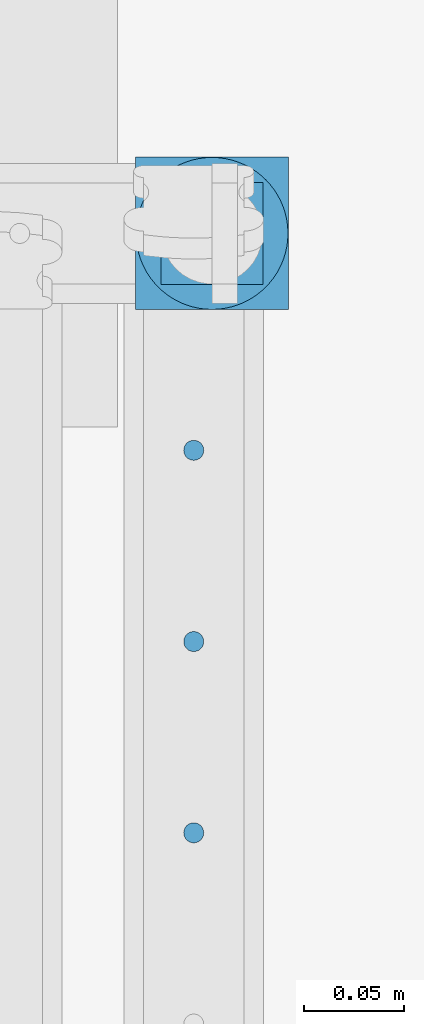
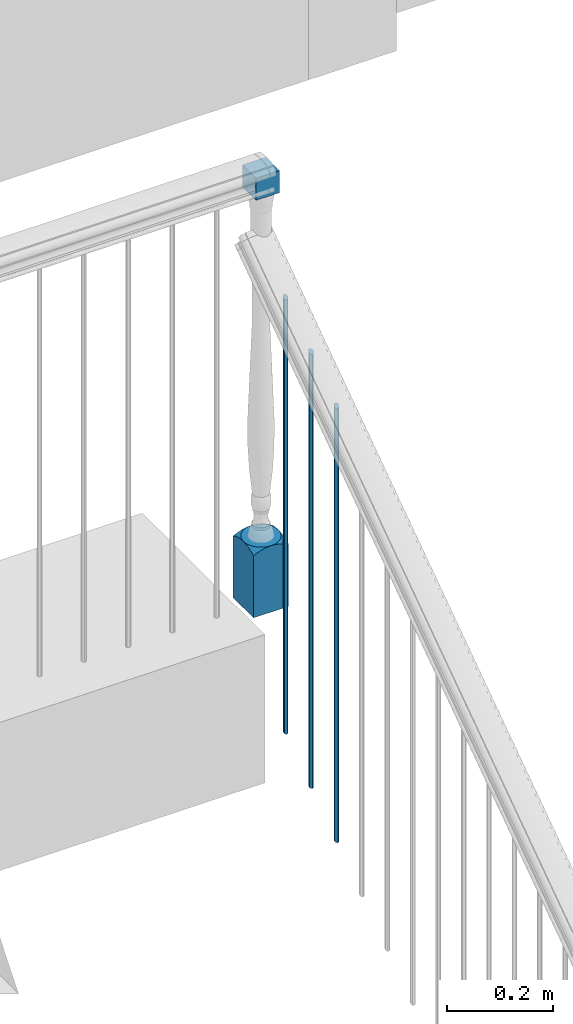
# One storey, part 16 of 77: 4 building element parts, 2 elements without a shape of their own.
"""IFC2X3 building model written with IfcOpenShell, lengths in inches."""

import ifcopenshell
import ifcopenshell.guid

model = None  # the IFC model being written
_history = None  # IfcOwnerHistory: only IFC2X3 demands one
_inside = {}  # id of a spatial element -> (the spatial element, [elements in it])
_under = {}  # id of a project, library or spatial element -> (it, [spatial elements below it])
_declared = {}  # id of a project -> (the project, [libraries it declares])
_typed = {}  # id of a type object -> (the type object, [elements of that type])
_made_of = {}  # id of a material, layer set ... -> (it, [elements and type objects made of it])


def new_model(schema):
    """Start an empty IFC model of exactly this schema.

    Asked for "IFC4X3", IfcOpenShell would pick the latest addendum, in which some entities
    have other attributes; the version numbers below select the first issue.
    IFC2X3 requires an IfcOwnerHistory on every rooted entity: one is made here for all.
    """
    global model, _history
    if schema == "IFC4X3":
        model = ifcopenshell.file(schema_version=(4, 3, 0, 0))
    else:
        model = ifcopenshell.file(schema=schema)
    _inside.clear()
    _under.clear()
    _declared.clear()
    _typed.clear()
    _made_of.clear()
    _history = None
    if model.schema == "IFC2X3":
        org = make("IfcOrganization", Name="unknown")
        user = make(
            "IfcPersonAndOrganization",
            ThePerson=make("IfcPerson", FamilyName="unknown"),
            TheOrganization=org,
        )
        app = make(
            "IfcApplication",
            ApplicationDeveloper=org,
            Version="unknown",
            ApplicationFullName="unknown",
            ApplicationIdentifier="unknown",
        )
        _history = make(
            "IfcOwnerHistory",
            OwningUser=user,
            OwningApplication=app,
            ChangeAction="ADDED",
            CreationDate=0,
        )
    return model


def make(cls, **values):
    """One entity of the class cls with the attributes given. An attribute that is None is left unset."""
    return model.create_entity(
        cls, **{name: value for name, value in values.items() if value is not None}
    )


def entity(cls, *values):
    """Any entity or typed value of the class cls, its attributes in the order of the schema. None: left unset."""
    e = model.create_entity(cls)
    for i, value in enumerate(values):
        if value is not None:
            e[i] = value
    return e


def rooted(cls, **values):
    """An entity with a GlobalId (a new one), such as an element, a storey or a relation."""
    return make(cls, GlobalId=ifcopenshell.guid.new(), OwnerHistory=_history, **values)


def si_unit(unit_type, name, prefix=None):
    """IfcSIUnit, for example si_unit("LENGTHUNIT", "METRE", prefix="MILLI")."""
    return make("IfcSIUnit", UnitType=unit_type, Prefix=prefix, Name=name)


def converted_unit(unit_type, name, factor, base, dimensions=None, offset=None):
    """IfcConversionBasedUnit, such as the inch: factor (a typed value) times the base unit."""
    return make(
        "IfcConversionBasedUnit"
        if offset is None
        else "IfcConversionBasedUnitWithOffset",
        ConversionOffset=offset,
        Dimensions=None
        if dimensions is None
        else entity("IfcDimensionalExponents", *dimensions),
        UnitType=unit_type,
        Name=name,
        ConversionFactor=make(
            "IfcMeasureWithUnit", ValueComponent=factor, UnitComponent=base
        ),
    )


def derived_unit(unit_type, elements):
    """IfcDerivedUnit: a product of units, each with its exponent."""
    return make(
        "IfcDerivedUnit",
        Elements=[
            make("IfcDerivedUnitElement", Unit=unit, Exponent=power)
            for unit, power in elements
        ],
        UnitType=unit_type,
    )


def money_unit(currency):
    """IfcMonetaryUnit."""
    return make("IfcMonetaryUnit", Currency=currency)


def assignment(units):
    """IfcUnitAssignment: the units of a project."""
    return None if units is None else make("IfcUnitAssignment", Units=units)


def point(xyz):
    """IfcCartesianPoint."""
    return None if xyz is None else make("IfcCartesianPoint", Coordinates=xyz)


def direction(xyz):
    """IfcDirection."""
    return None if xyz is None else make("IfcDirection", DirectionRatios=xyz)


def frame(location, z_axis=None, x_axis=None):
    """IfcAxis2Placement3D, a coordinate frame: its origin and axes. An axis left out is left unset."""
    return make(
        "IfcAxis2Placement3D",
        Location=point(location),
        Axis=direction(z_axis),
        RefDirection=direction(x_axis),
    )


def origin_with_axes():
    """The frame at (0, 0, 0) with the z axis (0, 0, 1) and the x axis (1, 0, 0) written out."""
    return frame((0.0, 0.0, 0.0), z_axis=(0.0, 0.0, 1.0), x_axis=(1.0, 0.0, 0.0))


def place(relative_to, where):
    """IfcLocalPlacement: puts the frame where relative to a parent placement (None: the world)."""
    return make(
        "IfcLocalPlacement", PlacementRelTo=relative_to, RelativePlacement=where
    )


def context(
    kind, dimensions, precision=None, world=None, true_north=None, identifier=None
):
    """IfcGeometricRepresentationContext, for example the 3D "Model" context."""
    return make(
        "IfcGeometricRepresentationContext",
        ContextIdentifier=identifier,
        ContextType=kind,
        CoordinateSpaceDimension=dimensions,
        Precision=precision,
        WorldCoordinateSystem=world,
        TrueNorth=true_north,
    )


def subcontext(parent, identifier, kind, view, scale=None):
    """IfcGeometricRepresentationSubContext, for example "Body" below "Model"."""
    return make(
        "IfcGeometricRepresentationSubContext",
        ContextIdentifier=identifier,
        ContextType=kind,
        ParentContext=parent,
        TargetScale=scale,
        TargetView=view,
    )


def project(units=None, contexts=None):
    """IfcProject with its units and contexts."""
    return rooted(
        "IfcProject",
        Name="project",
        RepresentationContexts=contexts,
        UnitsInContext=assignment(units),
    )


def spatial(cls, under=None, at=None, **own):
    """A site, building, storey or space (cls), placed at a placement, below another one or the project."""
    s = rooted(cls, ObjectPlacement=at, **own)
    if under is not None:
        _under.setdefault(under.id(), (under, []))[1].append(s)
    return s


def faces_of(points, faces, orient=None, outer=None):
    """IfcFace entities. A face is a list of loops; a loop is a list of indices into points, from 0.

    orient and outer hold one flag for each loop. By default every Orientation is true, the
    first loop of a face is its IfcFaceOuterBound and the others are IfcFaceBound.
    """
    made = []
    for i, loops in enumerate(faces):
        bounds = []
        for j, loop in enumerate(loops):
            is_outer = j == 0 if outer is None else outer[i][j]
            bounds.append(
                make(
                    "IfcFaceOuterBound" if is_outer else "IfcFaceBound",
                    Bound=make("IfcPolyLoop", Polygon=[points[k] for k in loop]),
                    Orientation=True if orient is None else orient[i][j],
                )
            )
        made.append(make("IfcFace", Bounds=bounds))
    return made


def faceted_brep(points, faces, orient=None, outer=None, voids=None):
    """IfcFacetedBrep: a solid bounded by flat faces; with voids (closed shells), ...WithVoids."""
    shared = [point(p) for p in points]
    hull = make("IfcClosedShell", CfsFaces=faces_of(shared, faces, orient, outer))
    if voids is None:
        return make("IfcFacetedBrep", Outer=hull)
    return make(
        "IfcFacetedBrepWithVoids",
        Outer=hull,
        Voids=[
            make(cls, CfsFaces=faces_of(shared, fs, o, b)) for cls, fs, o, b in voids
        ],
    )


def shape(context_of_items, identifier, shape_type, items):
    """IfcShapeRepresentation: the items that make up one representation, for example the "Body"."""
    return make(
        "IfcShapeRepresentation",
        ContextOfItems=context_of_items,
        RepresentationIdentifier=identifier,
        RepresentationType=shape_type,
        Items=items,
    )


def material(Name=None, Category=None):
    """IfcMaterial."""
    return make("IfcMaterial", Name=Name, Category=Category)


def made_of(thing, what):
    """Note that an element or type object is made of a material, layer set ...; save() writes the relation."""
    if what is not None:
        _made_of.setdefault(what.id(), (what, []))[1].append(thing)
    return thing


def type_object(cls, material=None, **own):
    """A type object (cls), such as IfcWallType, which elements share."""
    return made_of(rooted(cls, **own), material)


def element(
    cls,
    number,
    at=None,
    inside=None,
    cuts=None,
    type_object=None,
    material=None,
    context=None,
    identifier="Body",
    shape_type=None,
    held_by="IfcProductDefinitionShape",
    body=None,
    shapes=None,
    **own,
):
    """One element of the class cls, such as IfcWall. Its Tag is "e" and its number.

    at: its placement. inside: the storey or other place that contains it. cuts: it is an
    opening in that element (IfcRelVoidsElement). A single representation is given by context,
    identifier, shape_type and body (its items); several are given by shapes. held_by: the class
    of the entity that holds the representations. save() writes the other relations.
    """
    e = rooted(cls, Tag="e%d" % number, ObjectPlacement=at, **own)
    if body is not None:
        shapes = [shape(context, identifier, shape_type, body)]
    if shapes is not None:
        e.Representation = make(held_by, Representations=shapes)
    if inside is not None:
        _inside.setdefault(inside.id(), (inside, []))[1].append(e)
    if cuts is not None:
        rooted(
            "IfcRelVoidsElement", RelatingBuildingElement=cuts, RelatedOpeningElement=e
        )
    if type_object is not None:
        _typed.setdefault(type_object.id(), (type_object, []))[1].append(e)
    return made_of(e, material)


def aggregate(whole, parts):
    """IfcRelAggregates: a whole, such as a stair, and the parts it consists of."""
    return rooted("IfcRelAggregates", RelatingObject=whole, RelatedObjects=parts)


def save(model, path):
    """Write the relations noted so far, then the file.

    IfcRelAggregates (storeys below a building ...), IfcRelContainedInSpatialStructure (elements
    in a storey), IfcRelDefinesByType, IfcRelAssociatesMaterial and IfcRelDeclares: one each for
    every whole, place, type object, material and project.
    """
    for whole, parts in _under.values():
        aggregate(whole, parts)
    for where, things in _inside.values():
        rooted(
            "IfcRelContainedInSpatialStructure",
            RelatedElements=things,
            RelatingStructure=where,
        )
    for kind, things in _typed.values():
        rooted("IfcRelDefinesByType", RelatedObjects=things, RelatingType=kind)
    for what, things in _made_of.values():
        rooted("IfcRelAssociatesMaterial", RelatedObjects=things, RelatingMaterial=what)
    for by, libraries in _declared.values():
        rooted("IfcRelDeclares", RelatingContext=by, RelatedDefinitions=libraries)
    model.write(path)


model = new_model("IFC2X3")

# Units and contexts
model_context = context("Model", 3, precision=0.000393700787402, world=origin_with_axes(), true_north=direction((0.0, 1.0)))
body_context = subcontext(model_context, "Body", "Model", "MODEL_VIEW")
ifc_project = project(units=[converted_unit("LENGTHUNIT", "INCH", entity("IfcPositiveLengthMeasure", 0.0254), si_unit("LENGTHUNIT", "METRE"), dimensions=[1, 0, 0, 0, 0, 0, 0]), converted_unit("AREAUNIT", "SQUARE_FOOT", entity("IfcPositiveLengthMeasure", 0.09290304), si_unit("AREAUNIT", "SQUARE_METRE"), dimensions=[2, 0, 0, 0, 0, 0, 0]), si_unit("PLANEANGLEUNIT", "RADIAN"), si_unit("SOLIDANGLEUNIT", "STERADIAN"), money_unit("USD"), converted_unit("TIMEUNIT", "Year", entity("IfcTimeMeasure", 31556926.0), si_unit("TIMEUNIT", "SECOND"), dimensions=[0, 0, 1, 0, 0, 0, 0]), si_unit("MASSUNIT", "GRAM", prefix="KILO"), si_unit("THERMODYNAMICTEMPERATUREUNIT", "DEGREE_CELSIUS"), si_unit("LUMINOUSINTENSITYUNIT", "LUMEN"), si_unit("ENERGYUNIT", "JOULE", prefix="MEGA"), derived_unit("THERMALCONDUCTANCEUNIT", [(si_unit("POWERUNIT", "WATT"), 1), (si_unit("LENGTHUNIT", "METRE"), -1), (si_unit("THERMODYNAMICTEMPERATUREUNIT", "KELVIN"), -1)]), derived_unit("SPECIFICHEATCAPACITYUNIT", [(si_unit("ENERGYUNIT", "JOULE"), 1), (si_unit("MASSUNIT", "GRAM", prefix="KILO"), -1), (si_unit("THERMODYNAMICTEMPERATUREUNIT", "KELVIN"), -1)]), derived_unit("MASSDENSITYUNIT", [(si_unit("MASSUNIT", "GRAM", prefix="KILO"), 1), (si_unit("VOLUMEUNIT", "CUBIC_METRE"), -1)])], contexts=[model_context])

# Site, building, storey
site_placement = place(None, origin_with_axes())
site = spatial("IfcSite", under=ifc_project, at=site_placement, Name="Site", CompositionType="ELEMENT")
building_placement = place(site_placement, origin_with_axes())
building = spatial("IfcBuilding", under=site, at=building_placement, Name="Building", CompositionType="ELEMENT")
storey_placement = place(building_placement, frame((0.0, 0.0, 127.952755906), z_axis=(0.0, 0.0, 1.0), x_axis=(1.0, 0.0, 0.0)))
storey = spatial("IfcBuildingStorey", under=building, at=storey_placement, Name="Second Floor", CompositionType="ELEMENT", Elevation=127.953)

# Railing, building element parts
railing_type = type_object("IfcRailingType", Name="Railing Type", PredefinedType="NOTDEFINED")
railing_1_placement = place(storey_placement, frame((682.459998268, 144.881628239, -56.1089279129), z_axis=(0.0, 0.0, 1.0), x_axis=(-1.0, 0.0, 0.0)))
railing_1 = element("IfcRailing", 1, at=railing_1_placement, inside=storey, type_object=railing_type, Name="RAILING - 001", PredefinedType="NOTDEFINED")
ifc_material_1 = material(Name="Steel - Structural")
building_element_part_1_placement = place(railing_1_placement, origin_with_axes())
building_element_part_1 = element("IfcBuildingElementPart", 2, at=building_element_part_1_placement, material=ifc_material_1, Name="Steel - Structural", context=body_context, shape_type="Brep", body=[
    faceted_brep([(-1.96850393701, 4.07451677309, 47.2837761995), (-1.93432122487, 4.07750737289, 47.2816936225), (-1.93432122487, 4.07750737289, 86.4942925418), (-1.96850393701, 4.07451677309, 86.4963751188), (-2.00268664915, 4.07750737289, 47.2816936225), (-2.03583073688, 4.08638830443, 47.2755091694), (-2.06692913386, 4.1008897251, 47.2654107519), (-2.09503693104, 4.12057101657, 47.2517052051), (-2.11930008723, 4.14483417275, 47.2348089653), (-2.1389813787, 4.17294196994, 47.215235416), (-2.15348279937, 4.20404036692, 47.1935792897), (-2.16236373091, 4.23718445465, 47.1704985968), (-2.16535433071, 4.27136716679, 47.1466946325), (-2.16236373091, 4.30554987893, 47.1228906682), (-2.15348279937, 4.33869396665, 47.0998099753), (-2.1389813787, 4.36979236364, 47.078153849), (-2.11930008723, 4.39790016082, 47.0585802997), (-2.09503693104, 4.42216331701, 47.0416840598), (-2.06692913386, 4.44184460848, 47.0279785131), (-2.03583073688, 4.45634602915, 47.0178800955), (-2.00268664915, 4.46522696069, 47.0116956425), (-1.96850393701, 4.46821756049, 47.0096130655), (-1.93432122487, 4.46522696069, 47.0116956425), (-1.90117713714, 4.45634602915, 47.0178800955), (-1.87007874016, 4.44184460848, 47.0279785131), (-1.84197094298, 4.42216331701, 47.0416840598), (-1.81770778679, 4.39790016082, 47.0585802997), (-1.79802649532, 4.36979236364, 47.078153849), (-1.78352507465, 4.33869396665, 47.0998099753), (-1.77464414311, 4.30554987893, 47.1228906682), (-1.77165354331, 4.27136716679, 47.1466946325), (-1.77464414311, 4.23718445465, 47.1704985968), (-1.78352507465, 4.20404036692, 47.1935792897), (-1.79802649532, 4.17294196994, 47.215235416), (-1.81770778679, 4.14483417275, 47.2348089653), (-1.84197094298, 4.12057101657, 47.2517052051), (-1.87007874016, 4.1008897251, 47.2654107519), (-1.90117713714, 4.08638830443, 47.2755091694), (-1.90117713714, 4.08638830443, 86.4881080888), (-1.87007874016, 4.1008897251, 86.4780096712), (-1.84197094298, 4.12057101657, 86.4643041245), (-1.81770778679, 4.14483417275, 86.4474078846), (-1.79802649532, 4.17294196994, 86.4278343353), (-1.78352507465, 4.20404036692, 86.406178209), (-1.77464414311, 4.23718445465, 86.3830975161), (-1.77165354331, 4.27136716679, 86.3592935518), (-1.77464414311, 4.30554987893, 86.3354895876), (-1.78352507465, 4.33869396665, 86.3124088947), (-1.79802649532, 4.36979236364, 86.2907527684), (-1.81770778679, 4.39790016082, 86.2711792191), (-1.84197094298, 4.42216331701, 86.2542829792), (-1.87007874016, 4.44184460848, 86.2405774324), (-1.90117713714, 4.45634602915, 86.2304790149), (-1.93432122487, 4.46522696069, 86.2242945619), (-1.96850393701, 4.46821756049, 86.2222119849), (-2.00268664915, 4.46522696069, 86.2242945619), (-2.03583073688, 4.45634602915, 86.2304790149), (-2.06692913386, 4.44184460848, 86.2405774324), (-2.09503693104, 4.42216331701, 86.2542829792), (-2.11930008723, 4.39790016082, 86.2711792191), (-2.1389813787, 4.36979236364, 86.2907527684), (-2.15348279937, 4.33869396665, 86.3124088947), (-2.16236373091, 4.30554987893, 86.3354895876), (-2.16535433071, 4.27136716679, 86.3592935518), (-2.16236373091, 4.23718445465, 86.3830975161), (-2.15348279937, 4.20404036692, 86.406178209), (-2.1389813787, 4.17294196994, 86.4278343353), (-2.11930008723, 4.14483417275, 86.4474078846), (-2.09503693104, 4.12057101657, 86.4643041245), (-2.06692913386, 4.1008897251, 86.4780096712), (-2.03583073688, 4.08638830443, 86.4881080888), (-2.00268664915, 4.07750737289, 86.4942925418)], [[[0, 1, 2, 3]], [[0, 4, 5, 6, 7, 8, 9, 10, 11, 12, 13, 14, 15, 16, 17, 18, 19, 20, 21, 22, 23, 24, 25, 26, 27, 28, 29, 30, 31, 32, 33, 34, 35, 36, 37, 1]], [[1, 37, 38, 2]], [[3, 2, 38, 39, 40, 41, 42, 43, 44, 45, 46, 47, 48, 49, 50, 51, 52, 53, 54, 55, 56, 57, 58, 59, 60, 61, 62, 63, 64, 65, 66, 67, 68, 69, 70, 71]], [[4, 0, 3, 71]], [[5, 4, 71, 70]], [[6, 5, 70, 69]], [[7, 6, 69, 68]], [[8, 7, 68, 67]], [[9, 8, 67, 66]], [[10, 9, 66, 65]], [[11, 10, 65, 64]], [[12, 11, 64, 63]], [[13, 12, 63, 62]], [[14, 13, 62, 61]], [[15, 14, 61, 60]], [[16, 15, 60, 59]], [[17, 16, 59, 58]], [[18, 17, 58, 57]], [[19, 18, 57, 56]], [[20, 19, 56, 55]], [[21, 20, 55, 54]], [[22, 21, 54, 53]], [[23, 22, 53, 52]], [[24, 23, 52, 51]], [[25, 24, 51, 50]], [[26, 25, 50, 49]], [[27, 26, 49, 48]], [[28, 27, 48, 47]], [[29, 28, 47, 46]], [[30, 29, 46, 45]], [[31, 30, 45, 44]], [[32, 31, 44, 43]], [[33, 32, 43, 42]], [[34, 33, 42, 41]], [[35, 34, 41, 40]], [[36, 35, 40, 39]], [[37, 36, 39, 38]]]),
])
building_element_part_2_placement = place(railing_1_placement, origin_with_axes())
building_element_part_2 = element("IfcBuildingElementPart", 3, at=building_element_part_2_placement, material=ifc_material_1, Name="Steel - Structural", context=body_context, shape_type="Brep", body=[
    faceted_brep([(-1.96850393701, 7.83579948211, 44.6645153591), (-1.93432122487, 7.83879008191, 44.6624327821), (-1.93432122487, 7.83879008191, 83.8750317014), (-1.96850393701, 7.83579948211, 83.8771142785), (-2.00268664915, 7.83879008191, 44.6624327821), (-2.03583073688, 7.84767101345, 44.6562483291), (-2.06692913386, 7.86217243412, 44.6461499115), (-2.09503693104, 7.88185372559, 44.6324443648), (-2.11930008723, 7.90611688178, 44.6155481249), (-2.1389813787, 7.93422467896, 44.5959745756), (-2.15348279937, 7.96532307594, 44.5743184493), (-2.16236373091, 7.99846716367, 44.5512377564), (-2.16535433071, 8.03264987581, 44.5274337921), (-2.16236373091, 8.06683258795, 44.5036298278), (-2.15348279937, 8.09997667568, 44.4805491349), (-2.1389813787, 8.13107507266, 44.4588930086), (-2.11930008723, 8.15918286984, 44.4393194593), (-2.09503693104, 8.18344602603, 44.4224232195), (-2.06692913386, 8.2031273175, 44.4087176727), (-2.03583073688, 8.21762873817, 44.3986192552), (-2.00268664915, 8.22650966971, 44.3924348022), (-1.96850393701, 8.22950026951, 44.3903522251), (-1.93432122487, 8.22650966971, 44.3924348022), (-1.90117713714, 8.21762873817, 44.3986192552), (-1.87007874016, 8.2031273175, 44.4087176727), (-1.84197094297, 8.18344602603, 44.4224232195), (-1.81770778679, 8.15918286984, 44.4393194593), (-1.79802649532, 8.13107507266, 44.4588930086), (-1.78352507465, 8.09997667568, 44.4805491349), (-1.77464414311, 8.06683258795, 44.5036298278), (-1.77165354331, 8.03264987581, 44.5274337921), (-1.77464414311, 7.99846716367, 44.5512377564), (-1.78352507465, 7.96532307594, 44.5743184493), (-1.79802649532, 7.93422467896, 44.5959745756), (-1.81770778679, 7.90611688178, 44.6155481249), (-1.84197094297, 7.88185372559, 44.6324443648), (-1.87007874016, 7.86217243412, 44.6461499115), (-1.90117713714, 7.84767101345, 44.6562483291), (-1.90117713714, 7.84767101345, 83.8688472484), (-1.87007874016, 7.86217243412, 83.8587488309), (-1.84197094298, 7.88185372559, 83.8450432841), (-1.81770778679, 7.90611688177, 83.8281470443), (-1.79802649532, 7.93422467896, 83.808573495), (-1.78352507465, 7.96532307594, 83.7869173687), (-1.77464414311, 7.99846716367, 83.7638366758), (-1.77165354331, 8.03264987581, 83.7400327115), (-1.77464414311, 8.06683258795, 83.7162287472), (-1.78352507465, 8.09997667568, 83.6931480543), (-1.79802649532, 8.13107507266, 83.671491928), (-1.81770778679, 8.15918286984, 83.6519183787), (-1.84197094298, 8.18344602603, 83.6350221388), (-1.87007874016, 8.2031273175, 83.6213165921), (-1.90117713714, 8.21762873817, 83.6112181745), (-1.93432122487, 8.22650966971, 83.6050337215), (-1.96850393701, 8.22950026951, 83.6029511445), (-2.00268664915, 8.22650966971, 83.6050337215), (-2.03583073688, 8.21762873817, 83.6112181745), (-2.06692913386, 8.2031273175, 83.6213165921), (-2.09503693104, 8.18344602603, 83.6350221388), (-2.11930008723, 8.15918286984, 83.6519183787), (-2.1389813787, 8.13107507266, 83.671491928), (-2.15348279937, 8.09997667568, 83.6931480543), (-2.16236373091, 8.06683258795, 83.7162287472), (-2.16535433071, 8.03264987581, 83.7400327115), (-2.16236373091, 7.99846716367, 83.7638366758), (-2.15348279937, 7.96532307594, 83.7869173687), (-2.1389813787, 7.93422467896, 83.808573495), (-2.11930008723, 7.90611688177, 83.8281470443), (-2.09503693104, 7.88185372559, 83.8450432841), (-2.06692913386, 7.86217243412, 83.8587488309), (-2.03583073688, 7.84767101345, 83.8688472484), (-2.00268664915, 7.83879008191, 83.8750317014)], [[[0, 1, 2, 3]], [[0, 4, 5, 6, 7, 8, 9, 10, 11, 12, 13, 14, 15, 16, 17, 18, 19, 20, 21, 22, 23, 24, 25, 26, 27, 28, 29, 30, 31, 32, 33, 34, 35, 36, 37, 1]], [[1, 37, 38, 2]], [[3, 2, 38, 39, 40, 41, 42, 43, 44, 45, 46, 47, 48, 49, 50, 51, 52, 53, 54, 55, 56, 57, 58, 59, 60, 61, 62, 63, 64, 65, 66, 67, 68, 69, 70, 71]], [[4, 0, 3, 71]], [[5, 4, 71, 70]], [[6, 5, 70, 69]], [[7, 6, 69, 68]], [[8, 7, 68, 67]], [[9, 8, 67, 66]], [[10, 9, 66, 65]], [[11, 10, 65, 64]], [[12, 11, 64, 63]], [[13, 12, 63, 62]], [[14, 13, 62, 61]], [[15, 14, 61, 60]], [[16, 15, 60, 59]], [[17, 16, 59, 58]], [[18, 17, 58, 57]], [[19, 18, 57, 56]], [[20, 19, 56, 55]], [[21, 20, 55, 54]], [[22, 21, 54, 53]], [[23, 22, 53, 52]], [[24, 23, 52, 51]], [[25, 24, 51, 50]], [[26, 25, 50, 49]], [[27, 26, 49, 48]], [[28, 27, 48, 47]], [[29, 28, 47, 46]], [[30, 29, 46, 45]], [[31, 30, 45, 44]], [[32, 31, 44, 43]], [[33, 32, 43, 42]], [[34, 33, 42, 41]], [[35, 34, 41, 40]], [[36, 35, 40, 39]], [[37, 36, 39, 38]]]),
])
building_element_part_3_placement = place(railing_1_placement, origin_with_axes())
building_element_part_3 = element("IfcBuildingElementPart", 4, at=building_element_part_3_placement, material=ifc_material_1, Name="Steel - Structural", context=body_context, shape_type="Brep", body=[
    faceted_brep([(-1.96850393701, 11.5970821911, 42.0452545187), (-1.93432122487, 11.6000727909, 42.0431719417), (-1.93432122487, 11.6000727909, 81.2557708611), (-1.96850393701, 11.5970821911, 81.2578534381), (-2.00268664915, 11.6000727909, 42.0431719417), (-2.03583073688, 11.6089537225, 42.0369874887), (-2.06692913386, 11.6234551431, 42.0268890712), (-2.09503693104, 11.6431364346, 42.0131835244), (-2.11930008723, 11.6673995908, 41.9962872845), (-2.1389813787, 11.695507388, 41.9767137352), (-2.15348279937, 11.726605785, 41.9550576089), (-2.16236373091, 11.7597498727, 41.9319769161), (-2.16535433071, 11.7939325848, 41.9081729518), (-2.16236373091, 11.828115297, 41.8843689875), (-2.15348279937, 11.8612593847, 41.8612882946), (-2.1389813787, 11.8923577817, 41.8396321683), (-2.11930008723, 11.9204655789, 41.820058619), (-2.09503693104, 11.944728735, 41.8031623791), (-2.06692913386, 11.9644100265, 41.7894568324), (-2.03583073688, 11.9789114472, 41.7793584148), (-2.00268664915, 11.9877923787, 41.7731739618), (-1.96850393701, 11.9907829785, 41.7710913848), (-1.93432122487, 11.9877923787, 41.7731739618), (-1.90117713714, 11.9789114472, 41.7793584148), (-1.87007874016, 11.9644100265, 41.7894568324), (-1.84197094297, 11.944728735, 41.8031623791), (-1.81770778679, 11.9204655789, 41.820058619), (-1.79802649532, 11.8923577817, 41.8396321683), (-1.78352507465, 11.8612593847, 41.8612882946), (-1.77464414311, 11.828115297, 41.8843689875), (-1.77165354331, 11.7939325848, 41.9081729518), (-1.77464414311, 11.7597498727, 41.9319769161), (-1.78352507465, 11.726605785, 41.9550576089), (-1.79802649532, 11.695507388, 41.9767137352), (-1.81770778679, 11.6673995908, 41.9962872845), (-1.84197094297, 11.6431364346, 42.0131835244), (-1.87007874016, 11.6234551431, 42.0268890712), (-1.90117713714, 11.6089537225, 42.0369874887), (-1.90117713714, 11.6089537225, 81.2495864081), (-1.87007874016, 11.6234551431, 81.2394879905), (-1.84197094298, 11.6431364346, 81.2257824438), (-1.81770778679, 11.6673995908, 81.2088862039), (-1.79802649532, 11.695507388, 81.1893126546), (-1.78352507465, 11.726605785, 81.1676565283), (-1.77464414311, 11.7597498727, 81.1445758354), (-1.77165354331, 11.7939325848, 81.1207718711), (-1.77464414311, 11.828115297, 81.0969679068), (-1.78352507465, 11.8612593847, 81.0738872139), (-1.79802649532, 11.8923577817, 81.0522310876), (-1.81770778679, 11.9204655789, 81.0326575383), (-1.84197094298, 11.944728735, 81.0157612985), (-1.87007874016, 11.9644100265, 81.0020557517), (-1.90117713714, 11.9789114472, 80.9919573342), (-1.93432122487, 11.9877923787, 80.9857728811), (-1.96850393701, 11.9907829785, 80.9836903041), (-2.00268664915, 11.9877923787, 80.9857728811), (-2.03583073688, 11.9789114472, 80.9919573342), (-2.06692913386, 11.9644100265, 81.0020557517), (-2.09503693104, 11.944728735, 81.0157612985), (-2.11930008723, 11.9204655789, 81.0326575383), (-2.1389813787, 11.8923577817, 81.0522310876), (-2.15348279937, 11.8612593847, 81.0738872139), (-2.16236373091, 11.828115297, 81.0969679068), (-2.16535433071, 11.7939325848, 81.1207718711), (-2.16236373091, 11.7597498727, 81.1445758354), (-2.15348279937, 11.726605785, 81.1676565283), (-2.1389813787, 11.695507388, 81.1893126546), (-2.11930008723, 11.6673995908, 81.2088862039), (-2.09503693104, 11.6431364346, 81.2257824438), (-2.06692913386, 11.6234551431, 81.2394879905), (-2.03583073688, 11.6089537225, 81.2495864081), (-2.00268664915, 11.6000727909, 81.2557708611)], [[[0, 1, 2, 3]], [[0, 4, 5, 6, 7, 8, 9, 10, 11, 12, 13, 14, 15, 16, 17, 18, 19, 20, 21, 22, 23, 24, 25, 26, 27, 28, 29, 30, 31, 32, 33, 34, 35, 36, 37, 1]], [[1, 37, 38, 2]], [[3, 2, 38, 39, 40, 41, 42, 43, 44, 45, 46, 47, 48, 49, 50, 51, 52, 53, 54, 55, 56, 57, 58, 59, 60, 61, 62, 63, 64, 65, 66, 67, 68, 69, 70, 71]], [[4, 0, 3, 71]], [[5, 4, 71, 70]], [[6, 5, 70, 69]], [[7, 6, 69, 68]], [[8, 7, 68, 67]], [[9, 8, 67, 66]], [[10, 9, 66, 65]], [[11, 10, 65, 64]], [[12, 11, 64, 63]], [[13, 12, 63, 62]], [[14, 13, 62, 61]], [[15, 14, 61, 60]], [[16, 15, 60, 59]], [[17, 16, 59, 58]], [[18, 17, 58, 57]], [[19, 18, 57, 56]], [[20, 19, 56, 55]], [[21, 20, 55, 54]], [[22, 21, 54, 53]], [[23, 22, 53, 52]], [[24, 23, 52, 51]], [[25, 24, 51, 50]], [[26, 25, 50, 49]], [[27, 26, 49, 48]], [[28, 27, 48, 47]], [[29, 28, 47, 46]], [[30, 29, 46, 45]], [[31, 30, 45, 44]], [[32, 31, 44, 43]], [[33, 32, 43, 42]], [[34, 33, 42, 41]], [[35, 34, 41, 40]], [[36, 35, 40, 39]], [[37, 36, 39, 38]]]),
])
aggregate(railing_1, [building_element_part_1, building_element_part_2, building_element_part_3])

# Railing, building element part
railing_2_placement = place(storey_placement, frame((643.187139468, 142.90717231, 0.0), z_axis=(0.0, 0.0, 1.0), x_axis=(0.0, 1.0, 0.0)))
railing_2 = element("IfcRailing", 5, at=railing_2_placement, inside=storey, type_object=railing_type, Name="RAILING - 001", PredefinedType="NOTDEFINED")
ifc_material_2 = material(Name="Wood - Structural")
building_element_part_4_placement = place(railing_2_placement, origin_with_axes())
building_element_part_4 = element("IfcBuildingElementPart", 6, at=building_element_part_4_placement, material=ifc_material_2, Name="Wood - Structural", context=body_context, shape_type="Brep", body=[
    faceted_brep([(0.470433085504, -43.0982977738, 5.59807625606), (0.472538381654, -43.1002269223, 5.59807625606), (0.709854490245, -43.1002269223, 5.72121779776), (0.731887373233, -43.0739691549, 5.74751952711), (0.608147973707, -42.9605828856, 5.74751952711), (0.468503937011, -43.0961924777, 5.59807625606), (0.468503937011, -43.1002269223, 5.59807625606), (3.46446949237, -43.1002269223, 5.59807625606), (3.22715338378, -43.1002269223, 5.72121779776), (3.17090071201, -43.1002269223, 5.74751952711), (3.01881524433, -43.1002269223, 5.80655808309), (2.8345293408, -43.1002269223, 5.86969880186), (2.71553065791, -43.1002269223, 5.90473755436), (2.66796542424, -43.1002269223, 5.91618175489), (2.51445928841, -43.1002269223, 5.94679121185), (2.37042772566, -43.1002269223, 5.96935903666), (2.23299440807, -43.1002269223, 5.98485858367), (2.0997369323, -43.1002269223, 5.9939217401), (1.96850393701, -43.1002269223, 5.99690446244), (1.83727094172, -43.1002269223, 5.9939217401), (1.70401346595, -43.1002269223, 5.98485858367), (1.56658014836, -43.1002269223, 5.96935903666), (1.42254858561, -43.1002269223, 5.94679121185), (1.26904244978, -43.1002269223, 5.91618175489), (1.22147721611, -43.1002269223, 5.90473755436), (1.10247853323, -43.1002269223, 5.86969880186), (0.918192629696, -43.1002269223, 5.80655808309), (0.766107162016, -43.1002269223, 5.74751952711), (0.468503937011, -43.1002269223, 0.0), (3.46850393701, -43.1002269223, 0.0), (3.46850393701, -43.1002269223, 5.59807625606), (0.782649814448, -42.7860810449, 5.90473755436), (0.890516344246, -42.8849225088, 5.90473755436), (0.494761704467, -42.8368434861, 5.74751952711), (0.468503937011, -42.8588763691, 5.72121779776), (0.468503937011, -42.8026236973, 5.74751952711), (0.468503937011, -42.6505382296, 5.80655808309), (0.468503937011, -42.4662523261, 5.86969880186), (0.468503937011, -42.3472536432, 5.90473755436), (0.468503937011, -42.2996884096, 5.91618175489), (0.468503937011, -42.1461822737, 5.94679121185), (0.468503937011, -42.002150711, 5.96935903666), (0.468503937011, -41.8647173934, 5.98485858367), (0.468503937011, -41.7314599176, 5.9939217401), (0.468503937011, -41.6002269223, 5.99690446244), (0.468503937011, -41.468993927, 5.9939217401), (0.468503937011, -41.3357364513, 5.98485858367), (0.468503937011, -41.1983031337, 5.96935903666), (0.468503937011, -41.0542715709, 5.94679121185), (0.468503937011, -40.9007654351, 5.91618175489), (0.468503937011, -40.8532002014, 5.90473755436), (0.468503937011, -40.7342015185, 5.86969880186), (0.468503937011, -40.549915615, 5.80655808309), (0.468503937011, -40.3978301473, 5.74751952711), (0.468503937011, -40.3415774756, 5.72121779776), (0.468503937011, -40.104261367, 5.59807625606), (0.468503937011, -40.1002269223, 5.59807625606), (0.468503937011, -40.1002269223, 0.0), (3.46657478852, -43.0982977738, 5.59807625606), (3.32885990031, -42.9605828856, 5.74751952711), (3.20512050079, -43.0739691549, 5.74751952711), (2.93042086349, -42.9739866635, 5.90473755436), (3.04649152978, -42.8849225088, 5.90473755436), (2.80702942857, -43.0525956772, 5.90473755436), (2.59991820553, -42.9542991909, 6.0000000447), (2.71553065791, -42.8941151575, 6.0000000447), (2.47950030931, -43.0041779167, 6.0000000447), (2.35519342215, -43.0433717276, 6.0000000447), (2.22794359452, -43.0715823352, 6.0000000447), (2.09871927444, -43.0885950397, 6.0000000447), (1.96850393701, -43.0942803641, 6.0000000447), (1.83828859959, -43.0885950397, 6.0000000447), (1.70906427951, -43.0715823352, 6.0000000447), (1.58181445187, -43.0433717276, 6.0000000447), (1.45750756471, -43.0041779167, 6.0000000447), (1.33708966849, -42.9542991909, 6.0000000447), (1.12997844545, -43.0525956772, 5.90473755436), (1.22147721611, -42.8941151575, 6.0000000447), (1.00658701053, -42.9739866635, 5.90473755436), (3.46850393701, -40.1002269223, 0.0), (3.46850393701, -40.104261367, 5.59807625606), (3.46850393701, -40.3415774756, 5.72121779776), (3.46850393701, -40.3978301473, 5.74751952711), (3.46850393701, -40.549915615, 5.80655808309), (3.46850393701, -40.7342015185, 5.86969880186), (3.46850393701, -40.8532002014, 5.90473755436), (3.46850393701, -40.9007654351, 5.91618175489), (3.46850393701, -41.0542715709, 5.94679121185), (3.46850393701, -41.1983031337, 5.96935903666), (3.46850393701, -41.3357364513, 5.98485858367), (3.46850393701, -41.468993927, 5.9939217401), (3.46850393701, -41.6002269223, 5.99690446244), (3.46850393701, -41.7314599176, 5.9939217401), (3.46850393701, -41.8647173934, 5.98485858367), (3.46850393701, -42.002150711, 5.96935903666), (3.46850393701, -42.1461822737, 5.94679121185), (3.46850393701, -42.2996884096, 5.91618175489), (3.46850393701, -42.3472536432, 5.90473755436), (3.46850393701, -42.4662523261, 5.86969880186), (3.46850393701, -42.6505382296, 5.80655808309), (3.46850393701, -42.8026236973, 5.74751952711), (3.46850393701, -42.8588763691, 5.72121779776), (3.46850393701, -43.0961924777, 5.59807625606), (3.46850393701, -40.1002269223, 5.59807625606), (0.683808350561, -42.6782145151, 5.90473755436), (1.00814489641, -42.7447382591, 6.0000000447), (0.912048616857, -42.6566822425, 6.0000000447), (0.594744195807, -42.5621438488, 5.90473755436), (0.516135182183, -42.4387524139, 5.90473755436), (0.614431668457, -42.2316411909, 6.0000000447), (0.674615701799, -42.3472536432, 6.0000000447), (0.564552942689, -42.1112232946, 6.0000000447), (0.525359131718, -41.9869164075, 6.0000000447), (0.497148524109, -41.8596665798, 6.0000000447), (0.480135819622, -41.7304422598, 6.0000000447), (0.474450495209, -41.6002269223, 6.0000000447), (0.480135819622, -41.4700115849, 6.0000000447), (0.497148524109, -41.3407872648, 6.0000000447), (0.525359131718, -41.2135374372, 6.0000000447), (0.564552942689, -41.08923055, 6.0000000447), (0.614431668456, -40.9688126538, 6.0000000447), (0.516135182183, -40.7617014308, 5.90473755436), (0.674615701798, -40.8532002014, 6.0000000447), (0.594744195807, -40.6383099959, 5.90473755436), (0.494761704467, -40.3636103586, 5.74751952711), (0.683808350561, -40.5222393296, 5.90473755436), (0.470433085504, -40.1021560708, 5.59807625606), (0.608147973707, -40.239870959, 5.74751952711), (0.472538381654, -40.1002269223, 5.59807625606), (0.709854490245, -40.1002269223, 5.72121779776), (0.766107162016, -40.1002269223, 5.74751952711), (0.918192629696, -40.1002269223, 5.80655808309), (1.10247853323, -40.1002269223, 5.86969880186), (1.22147721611, -40.1002269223, 5.90473755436), (1.26904244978, -40.1002269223, 5.91618175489), (1.42254858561, -40.1002269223, 5.94679121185), (1.56658014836, -40.1002269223, 5.96935903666), (1.70401346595, -40.1002269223, 5.98485858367), (1.83727094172, -40.1002269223, 5.9939217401), (1.96850393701, -40.1002269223, 5.99690446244), (2.0997369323, -40.1002269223, 5.9939217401), (2.23299440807, -40.1002269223, 5.98485858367), (2.37042772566, -40.1002269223, 5.96935903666), (2.51445928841, -40.1002269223, 5.94679121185), (2.66796542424, -40.1002269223, 5.91618175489), (2.71553065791, -40.1002269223, 5.90473755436), (2.8345293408, -40.1002269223, 5.86969880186), (3.01881524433, -40.1002269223, 5.80655808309), (3.17090071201, -40.1002269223, 5.74751952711), (3.22715338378, -40.1002269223, 5.72121779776), (3.46446949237, -40.1002269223, 5.59807625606), (3.44224616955, -42.8368434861, 5.74751952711), (3.15435805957, -42.7860810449, 5.90473755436), (2.92886297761, -42.7447382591, 6.0000000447), (2.82545778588, -42.8240838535, 6.0000000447), (3.02495925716, -42.6566822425, 6.0000000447), (3.11301527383, -42.5605859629, 6.0000000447), (3.19236086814, -42.4571807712, 6.0000000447), (3.26239217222, -42.3472536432, 6.0000000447), (3.32257620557, -42.2316411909, 6.0000000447), (3.37245493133, -42.1112232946, 6.0000000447), (3.4116487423, -41.9869164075, 6.0000000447), (3.43985934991, -41.8596665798, 6.0000000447), (3.4568720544, -41.7304422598, 6.0000000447), (3.46255737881, -41.6002269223, 6.0000000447), (3.4568720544, -41.4700115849, 6.0000000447), (3.43985934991, -41.3407872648, 6.0000000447), (3.4116487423, -41.2135374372, 6.0000000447), (3.37245493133, -41.08923055, 6.0000000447), (3.32257620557, -40.9688126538, 6.0000000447), (3.26239217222, -40.8532002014, 6.0000000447), (3.19236086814, -40.7432730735, 6.0000000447), (3.11301527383, -40.6398678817, 6.0000000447), (3.02495925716, -40.5437716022, 6.0000000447), (2.92886297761, -40.4557155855, 6.0000000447), (2.82545778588, -40.3763699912, 6.0000000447), (2.71553065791, -40.3063386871, 6.0000000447), (2.59991820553, -40.2461546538, 6.0000000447), (2.47950030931, -40.196275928, 6.0000000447), (2.35519342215, -40.157082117, 6.0000000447), (2.22794359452, -40.1288715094, 6.0000000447), (2.09871927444, -40.1118588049, 6.0000000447), (1.96850393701, -40.1061734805, 6.0000000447), (1.83828859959, -40.1118588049, 6.0000000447), (1.7090642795, -40.1288715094, 6.0000000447), (1.58181445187, -40.157082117, 6.0000000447), (1.45750756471, -40.196275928, 6.0000000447), (1.33708966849, -40.2461546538, 6.0000000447), (1.22147721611, -40.3063386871, 6.0000000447), (1.11155008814, -40.3763699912, 6.0000000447), (1.00814489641, -40.4557155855, 6.0000000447), (0.912048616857, -40.5437716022, 6.0000000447), (0.823992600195, -40.6398678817, 6.0000000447), (0.744647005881, -40.7432730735, 6.0000000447), (0.744647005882, -42.4571807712, 6.0000000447), (0.823992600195, -42.5605859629, 6.0000000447), (1.11155008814, -42.8240838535, 6.0000000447), (3.46657478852, -40.1021560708, 5.59807625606), (3.32885990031, -40.239870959, 5.74751952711), (3.44224616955, -40.3636103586, 5.74751952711), (3.34226367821, -40.6383099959, 5.90473755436), (3.25319952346, -40.5222393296, 5.90473755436), (3.42087269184, -40.7617014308, 5.90473755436), (3.42087269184, -42.4387524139, 5.90473755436), (3.34226367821, -42.5621438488, 5.90473755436), (3.25319952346, -42.6782145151, 5.90473755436), (0.782649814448, -40.4143727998, 5.90473755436), (0.731887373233, -40.1264846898, 5.74751952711), (1.00658701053, -40.2264671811, 5.90473755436), (0.890516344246, -40.3155313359, 5.90473755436), (1.12997844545, -40.1478581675, 5.90473755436), (2.80702942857, -40.1478581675, 5.90473755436), (2.93042086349, -40.2264671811, 5.90473755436), (3.20512050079, -40.1264846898, 5.74751952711), (3.04649152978, -40.3155313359, 5.90473755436), (3.15435805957, -40.4143727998, 5.90473755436)], [[[0, 1, 2, 3, 4]], [[1, 0, 5, 6]], [[7, 8, 9, 10, 11, 12, 13, 14, 15, 16, 17, 18, 19, 20, 21, 22, 23, 24, 25, 26, 27, 2, 1, 6, 28, 29, 30]], [[3, 2, 27]], [[31, 4, 3, 32]], [[5, 0, 4, 33, 34]], [[5, 34, 35, 36, 37, 38, 39, 40, 41, 42, 43, 44, 45, 46, 47, 48, 49, 50, 51, 52, 53, 54, 55, 56, 57, 28, 6]], [[7, 58, 59, 60, 8]], [[60, 9, 8]], [[61, 10, 9, 60, 62]], [[63, 11, 10, 61]], [[63, 12, 11]], [[64, 13, 12, 63, 65]], [[66, 14, 13, 64]], [[67, 15, 14, 66]], [[68, 16, 15, 67]], [[69, 17, 16, 68]], [[70, 18, 17, 69]], [[71, 19, 18, 70]], [[72, 20, 19, 71]], [[73, 21, 20, 72]], [[74, 22, 21, 73]], [[75, 23, 22, 74]], [[76, 24, 23, 75, 77]], [[76, 25, 24]], [[78, 26, 25, 76]], [[3, 27, 26, 78, 32]], [[79, 29, 28, 57]], [[80, 81, 82, 83, 84, 85, 86, 87, 88, 89, 90, 91, 92, 93, 94, 95, 96, 97, 98, 99, 100, 101, 102, 30, 29, 79, 103]], [[58, 7, 30, 102]], [[104, 33, 4, 31]], [[32, 105, 106, 31]], [[33, 35, 34]], [[107, 36, 35, 33, 104]], [[108, 37, 36, 107]], [[108, 38, 37]], [[109, 39, 38, 108, 110]], [[111, 40, 39, 109]], [[112, 41, 40, 111]], [[113, 42, 41, 112]], [[114, 43, 42, 113]], [[115, 44, 43, 114]], [[116, 45, 44, 115]], [[117, 46, 45, 116]], [[118, 47, 46, 117]], [[119, 48, 47, 118]], [[120, 49, 48, 119]], [[121, 50, 49, 120, 122]], [[121, 51, 50]], [[123, 52, 51, 121]], [[124, 53, 52, 123, 125]], [[124, 54, 53]], [[126, 55, 54, 124, 127]], [[55, 126, 128, 56]], [[128, 129, 130, 131, 132, 133, 134, 135, 136, 137, 138, 139, 140, 141, 142, 143, 144, 145, 146, 147, 148, 149, 150, 103, 79, 57, 56]], [[58, 102, 101, 151, 59]], [[62, 60, 59, 152]], [[62, 153, 154, 61]], [[61, 154, 65, 63]], [[72, 71, 70, 69, 68, 67, 66, 64, 65, 154, 153, 155, 156, 157, 158, 159, 160, 161, 162, 163, 164, 165, 166, 167, 168, 169, 170, 171, 172, 173, 174, 175, 176, 177, 178, 179, 180, 181, 182, 183, 184, 185, 186, 187, 188, 189, 190, 191, 192, 193, 122, 120, 119, 118, 117, 116, 115, 114, 113, 112, 111, 109, 110, 194, 195, 106, 105, 196, 77, 75, 74, 73]], [[76, 77, 196, 78]], [[78, 196, 105, 32]], [[80, 197, 198, 199, 81]], [[199, 82, 81]], [[200, 83, 82, 199, 201]], [[202, 84, 83, 200]], [[202, 85, 84]], [[169, 86, 85, 202, 170]], [[168, 87, 86, 169]], [[167, 88, 87, 168]], [[166, 89, 88, 167]], [[165, 90, 89, 166]], [[164, 91, 90, 165]], [[163, 92, 91, 164]], [[162, 93, 92, 163]], [[161, 94, 93, 162]], [[160, 95, 94, 161]], [[159, 96, 95, 160]], [[203, 97, 96, 159, 158]], [[203, 98, 97]], [[204, 99, 98, 203]], [[151, 100, 99, 204, 205]], [[151, 101, 100]], [[197, 80, 103, 150]], [[31, 106, 195, 104]], [[104, 195, 194, 107]], [[107, 194, 110, 108]], [[121, 122, 193, 123]], [[123, 193, 192, 125]], [[206, 127, 124, 125]], [[128, 126, 127, 207, 129]], [[207, 130, 129]], [[208, 131, 130, 207, 209]], [[210, 132, 131, 208]], [[210, 133, 132]], [[187, 134, 133, 210, 188]], [[186, 135, 134, 187]], [[185, 136, 135, 186]], [[184, 137, 136, 185]], [[183, 138, 137, 184]], [[182, 139, 138, 183]], [[181, 140, 139, 182]], [[180, 141, 140, 181]], [[179, 142, 141, 180]], [[178, 143, 142, 179]], [[177, 144, 143, 178]], [[211, 145, 144, 177, 176]], [[211, 146, 145]], [[212, 147, 146, 211]], [[213, 148, 147, 212, 214]], [[213, 149, 148]], [[197, 150, 149, 213, 198]], [[152, 59, 151, 205]], [[152, 155, 153, 62]], [[205, 156, 155, 152]], [[204, 157, 156, 205]], [[203, 158, 157, 204]], [[200, 171, 170, 202]], [[201, 172, 171, 200]], [[215, 173, 172, 201]], [[214, 174, 173, 215]], [[212, 175, 174, 214]], [[211, 176, 175, 212]], [[208, 189, 188, 210]], [[209, 190, 189, 208]], [[206, 191, 190, 209]], [[125, 192, 191, 206]], [[201, 199, 198, 215]], [[209, 207, 127, 206]], [[215, 198, 213, 214]]]),
    faceted_brep([(2.96850393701, -40.6002269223, 39.2125984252), (2.96850393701, -40.6002269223, 37.2125984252), (0.968503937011, -40.6002269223, 37.2125984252), (0.968503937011, -40.6002269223, 39.2125984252), (2.96850393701, -42.6002269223, 39.2125984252), (2.96850393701, -42.6002269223, 37.2125984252), (0.968503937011, -42.6002269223, 37.2125984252), (0.968503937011, -42.6002269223, 39.2125984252)], [[[0, 1, 2, 3]], [[4, 5, 1, 0]], [[1, 5, 6, 2]], [[3, 2, 6, 7]], [[0, 3, 7, 4]], [[7, 6, 5, 4]]]),
])
aggregate(railing_2, [building_element_part_4])

save(model, "model.ifc")
